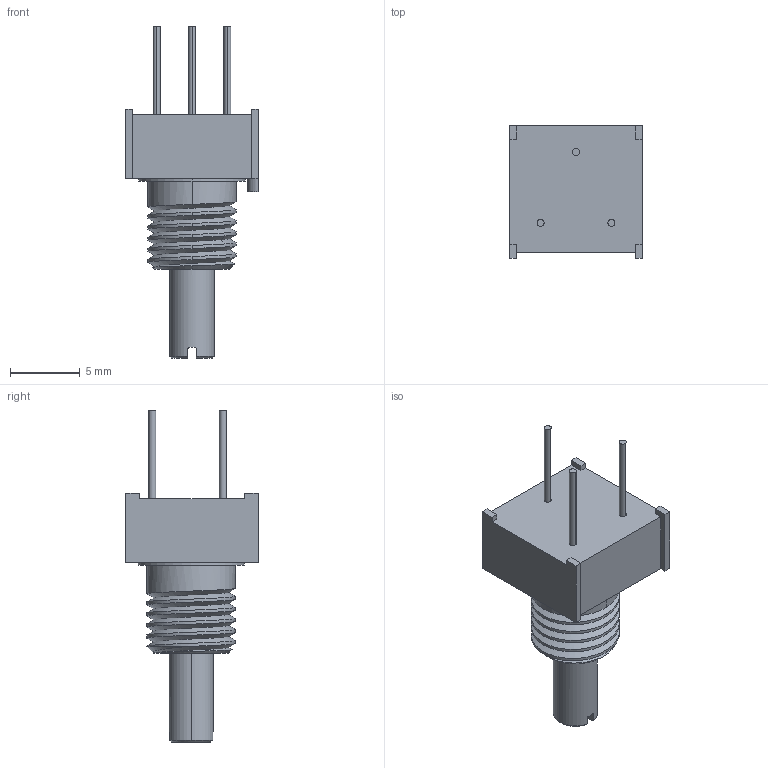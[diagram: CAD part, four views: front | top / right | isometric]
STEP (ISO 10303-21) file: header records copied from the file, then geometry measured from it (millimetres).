
FILE_DESCRIPTION(/* description */ ('Unknown'),/* implementation_level */ '2;1');
FILE_NAME(/* name */ 'P9AY0ABBS____',/* time_stamp */ '2026-05-20T16:43:48+02:00',/* author */ ('Unknown'),/* organization */ ('Unknown'),/* preprocessor_version */ 'ST-DEVELOPER v19.4',/* originating_system */ 'Solid Edge',/* authorisation */ 'Unknown');
FILE_SCHEMA (('AUTOMOTIVE_DESIGN {1 0 10303 214 3 1 1}'));
Length unit declared in the file: millimetre
Products named in the file (1): 3310Y-001
Bounding box: 9.53 x 9.53 x 23.86 mm (x, y, z)
Volume: 548.7 mm3; surface area: 1045.6 mm2
Topology: 1 solids, 1 shells, 191 faces, 513 edges, 337 vertices
Faces by surface type: plane 121, cylinder 51, cone 14, bspline 4, torus 1
Entity records: 7281 total; most frequent: CARTESIAN_POINT 2449, ORIENTED_EDGE 1026, DIRECTION 960, EDGE_CURVE 513, LINE 350, VECTOR 350, VERTEX_POINT 337, AXIS2_PLACEMENT_3D 305
